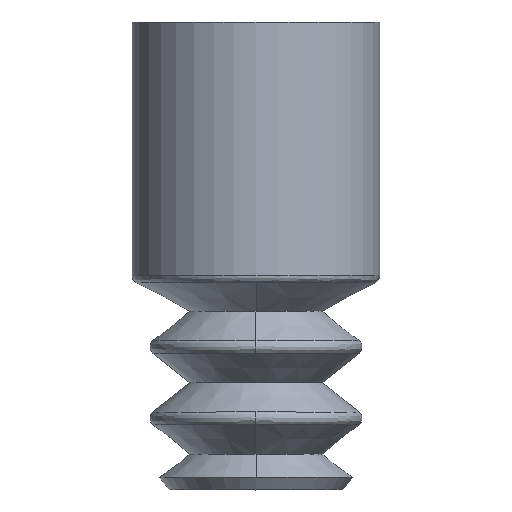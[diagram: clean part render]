
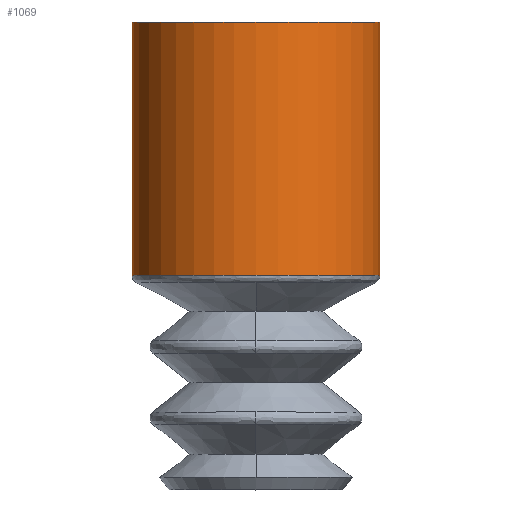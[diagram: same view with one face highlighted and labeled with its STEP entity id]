
A CAD part, top view. The second image highlights one B-rep face of the part: STEP entity #1069.
In plain terms, the highlighted cylindrical face has radius 3.5 mm (diameter 7 mm), a partial arc.
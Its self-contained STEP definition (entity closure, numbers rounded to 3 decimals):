
#16 = CIRCLE ( 'NONE', #661, 3.5 ) ;
#26 = VERTEX_POINT ( 'NONE', #952 ) ;
#101 = CARTESIAN_POINT ( 'NONE',  ( -3.5, 0., 0. ) ) ;
#110 = EDGE_CURVE ( 'NONE', #1054, #843, #756, .T. ) ;
#121 = CYLINDRICAL_SURFACE ( 'NONE', #229, 3.5 ) ;
#154 = ORIENTED_EDGE ( 'NONE', *, *, #464, .F. ) ;
#229 = AXIS2_PLACEMENT_3D ( 'NONE', #1400, #1553, #1532 ) ;
#302 = ORIENTED_EDGE ( 'NONE', *, *, #1239, .F. ) ;
#459 = DIRECTION ( 'NONE',  ( 0., 1., 0. ) ) ;
#464 = EDGE_CURVE ( 'NONE', #1251, #1054, #1405, .T. ) ;
#533 = DIRECTION ( 'NONE',  ( 0., 1., 0. ) ) ;
#648 = CARTESIAN_POINT ( 'NONE',  ( 0., -7.15, 0. ) ) ;
#651 = CARTESIAN_POINT ( 'NONE',  ( -3.5, -7.15, 0. ) ) ;
#661 = AXIS2_PLACEMENT_3D ( 'NONE', #648, #1519, #1042 ) ;
#756 = CIRCLE ( 'NONE', #1084, 3.5 ) ;
#786 = ORIENTED_EDGE ( 'NONE', *, *, #1474, .T. ) ;
#787 = CARTESIAN_POINT ( 'NONE',  ( 0., 0., 0. ) ) ;
#807 = DIRECTION ( 'NONE',  ( -1., 0., 0. ) ) ;
#822 = DIRECTION ( 'NONE',  ( 0., 1., 0. ) ) ;
#843 = VERTEX_POINT ( 'NONE', #1529 ) ;
#952 = CARTESIAN_POINT ( 'NONE',  ( 3.5, -7.15, 0. ) ) ;
#986 = EDGE_LOOP ( 'NONE', ( #302, #786, #1131, #154 ) ) ;
#1042 = DIRECTION ( 'NONE',  ( 0., 0., -1. ) ) ;
#1054 = VERTEX_POINT ( 'NONE', #101 ) ;
#1069 = ADVANCED_FACE ( 'NONE', ( #1142 ), #121, .T. ) ;
#1084 = AXIS2_PLACEMENT_3D ( 'NONE', #787, #822, #807 ) ;
#1131 = ORIENTED_EDGE ( 'NONE', *, *, #110, .F. ) ;
#1142 = FACE_OUTER_BOUND ( 'NONE', #986, .T. ) ;
#1181 = CARTESIAN_POINT ( 'NONE',  ( -3.5, -7.15, 0. ) ) ;
#1239 = EDGE_CURVE ( 'NONE', #26, #1251, #16, .T. ) ;
#1251 = VERTEX_POINT ( 'NONE', #1181 ) ;
#1259 = LINE ( 'NONE', #1425, #1380 ) ;
#1380 = VECTOR ( 'NONE', #533, 1000. ) ;
#1400 = CARTESIAN_POINT ( 'NONE',  ( 0., -7.15, 0. ) ) ;
#1405 = LINE ( 'NONE', #651, #1450 ) ;
#1425 = CARTESIAN_POINT ( 'NONE',  ( 3.5, -7.15, 0. ) ) ;
#1450 = VECTOR ( 'NONE', #459, 1000. ) ;
#1474 = EDGE_CURVE ( 'NONE', #26, #843, #1259, .T. ) ;
#1519 = DIRECTION ( 'NONE',  ( 0., -1., 0. ) ) ;
#1529 = CARTESIAN_POINT ( 'NONE',  ( 3.5, 0., 0. ) ) ;
#1532 = DIRECTION ( 'NONE',  ( -1., 0., 0. ) ) ;
#1553 = DIRECTION ( 'NONE',  ( 0., 1., 0. ) ) ;
